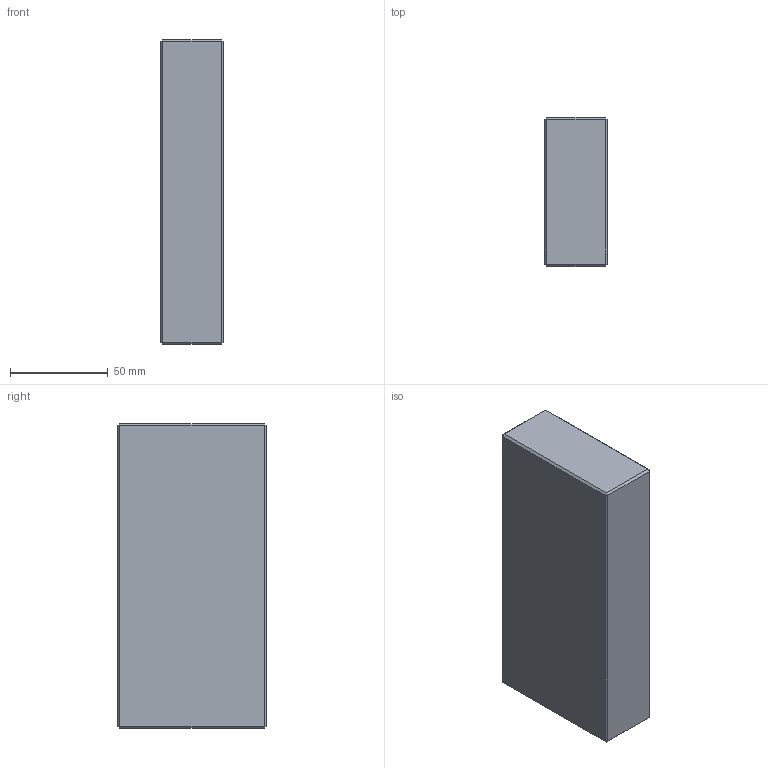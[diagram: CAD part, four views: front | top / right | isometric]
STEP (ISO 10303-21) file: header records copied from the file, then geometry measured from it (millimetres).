
FILE_DESCRIPTION (( 'STEP AP214' ), '1' );
FILE_NAME ('ESP-P-156X156x76.STEP', '2020-04-08T10:11:06', ( 'August' ), ( '' ), 'SwSTEP 2.0', 'SolidWorks 2018', '' );
FILE_SCHEMA (( 'AUTOMOTIVE_DESIGN' ));
Length unit declared in the file: millimetre
Products named in the file (1): ESP-P-156X156x76
Bounding box: 32 x 76 x 156 mm (x, y, z)
Volume: 378869.3 mm3; surface area: 37938.4 mm2
Topology: 1 solids, 1 shells, 26 faces, 48 edges, 24 vertices
Faces by surface type: plane 26
Entity records: 634 total; most frequent: DIRECTION 102, CARTESIAN_POINT 99, ORIENTED_EDGE 96, LINE 48, VECTOR 48, EDGE_CURVE 48, AXIS2_PLACEMENT_3D 27, PLANE 26
